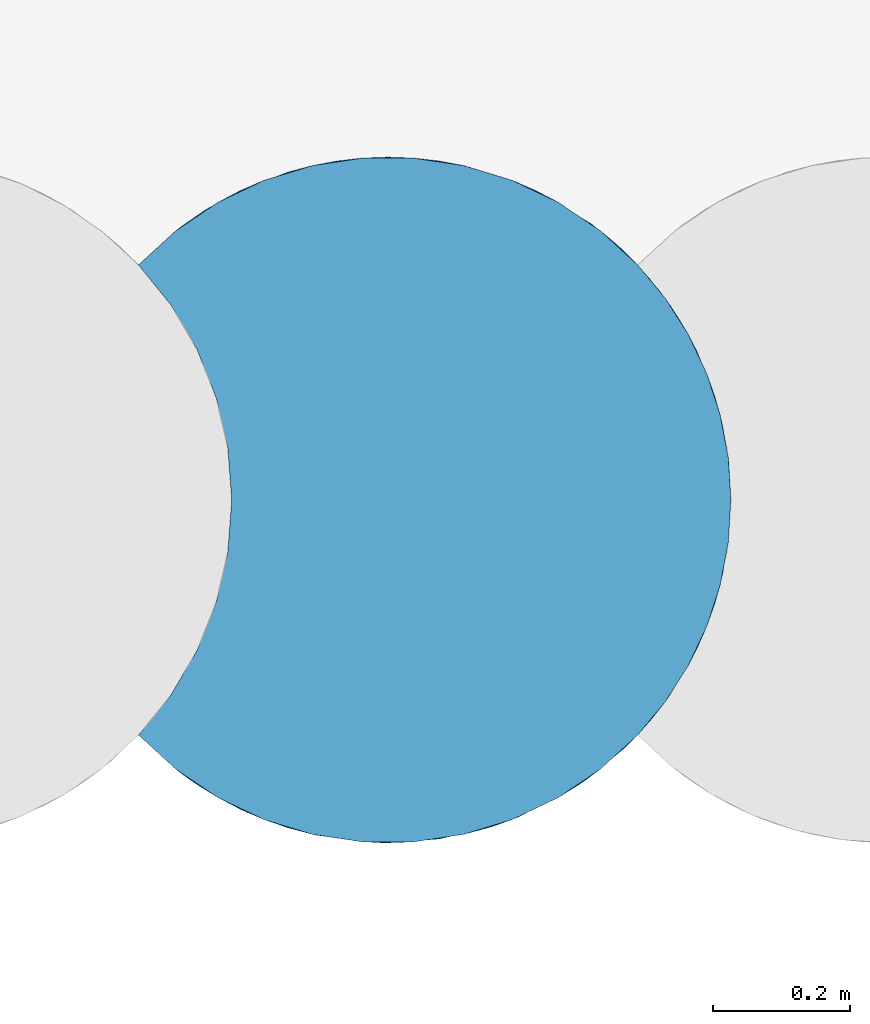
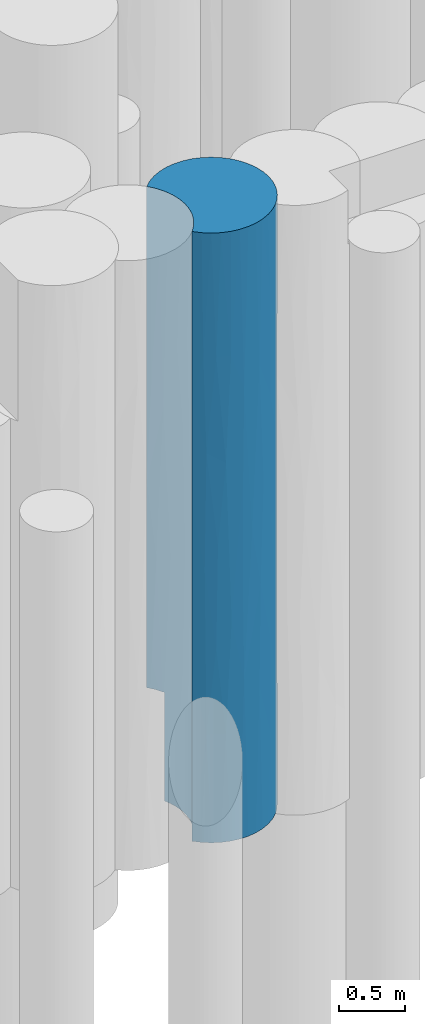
# One storey, part 38 of 104: 1 pile.
"""IFC2X3 building model written with IfcOpenShell, lengths in millimetres."""

import ifcopenshell
import ifcopenshell.guid

model = None  # the IFC model being written
_history = None  # IfcOwnerHistory: only IFC2X3 demands one
_inside = {}  # id of a spatial element -> (the spatial element, [elements in it])
_under = {}  # id of a project, library or spatial element -> (it, [spatial elements below it])
_declared = {}  # id of a project -> (the project, [libraries it declares])
_typed = {}  # id of a type object -> (the type object, [elements of that type])
_made_of = {}  # id of a material, layer set ... -> (it, [elements and type objects made of it])


def new_model(schema):
    """Start an empty IFC model of exactly this schema.

    Asked for "IFC4X3", IfcOpenShell would pick the latest addendum, in which some entities
    have other attributes; the version numbers below select the first issue.
    IFC2X3 requires an IfcOwnerHistory on every rooted entity: one is made here for all.
    """
    global model, _history
    if schema == "IFC4X3":
        model = ifcopenshell.file(schema_version=(4, 3, 0, 0))
    else:
        model = ifcopenshell.file(schema=schema)
    _inside.clear()
    _under.clear()
    _declared.clear()
    _typed.clear()
    _made_of.clear()
    _history = None
    if model.schema == "IFC2X3":
        org = make("IfcOrganization", Name="unknown")
        user = make(
            "IfcPersonAndOrganization",
            ThePerson=make("IfcPerson", FamilyName="unknown"),
            TheOrganization=org,
        )
        app = make(
            "IfcApplication",
            ApplicationDeveloper=org,
            Version="unknown",
            ApplicationFullName="unknown",
            ApplicationIdentifier="unknown",
        )
        _history = make(
            "IfcOwnerHistory",
            OwningUser=user,
            OwningApplication=app,
            ChangeAction="ADDED",
            CreationDate=0,
        )
    return model


def make(cls, **values):
    """One entity of the class cls with the attributes given. An attribute that is None is left unset."""
    return model.create_entity(
        cls, **{name: value for name, value in values.items() if value is not None}
    )


def entity(cls, *values):
    """Any entity or typed value of the class cls, its attributes in the order of the schema. None: left unset."""
    e = model.create_entity(cls)
    for i, value in enumerate(values):
        if value is not None:
            e[i] = value
    return e


def rooted(cls, **values):
    """An entity with a GlobalId (a new one), such as an element, a storey or a relation."""
    return make(cls, GlobalId=ifcopenshell.guid.new(), OwnerHistory=_history, **values)


def si_unit(unit_type, name, prefix=None):
    """IfcSIUnit, for example si_unit("LENGTHUNIT", "METRE", prefix="MILLI")."""
    return make("IfcSIUnit", UnitType=unit_type, Prefix=prefix, Name=name)


def converted_unit(unit_type, name, factor, base, dimensions=None, offset=None):
    """IfcConversionBasedUnit, such as the inch: factor (a typed value) times the base unit."""
    return make(
        "IfcConversionBasedUnit"
        if offset is None
        else "IfcConversionBasedUnitWithOffset",
        ConversionOffset=offset,
        Dimensions=None
        if dimensions is None
        else entity("IfcDimensionalExponents", *dimensions),
        UnitType=unit_type,
        Name=name,
        ConversionFactor=make(
            "IfcMeasureWithUnit", ValueComponent=factor, UnitComponent=base
        ),
    )


def derived_unit(unit_type, elements):
    """IfcDerivedUnit: a product of units, each with its exponent."""
    return make(
        "IfcDerivedUnit",
        Elements=[
            make("IfcDerivedUnitElement", Unit=unit, Exponent=power)
            for unit, power in elements
        ],
        UnitType=unit_type,
    )


def assignment(units):
    """IfcUnitAssignment: the units of a project."""
    return None if units is None else make("IfcUnitAssignment", Units=units)


def point(xyz):
    """IfcCartesianPoint."""
    return None if xyz is None else make("IfcCartesianPoint", Coordinates=xyz)


def direction(xyz):
    """IfcDirection."""
    return None if xyz is None else make("IfcDirection", DirectionRatios=xyz)


def frame(location, z_axis=None, x_axis=None):
    """IfcAxis2Placement3D, a coordinate frame: its origin and axes. An axis left out is left unset."""
    return make(
        "IfcAxis2Placement3D",
        Location=point(location),
        Axis=direction(z_axis),
        RefDirection=direction(x_axis),
    )


def origin():
    """The frame at (0, 0, 0) with its axes left unset."""
    return frame((0.0, 0.0, 0.0))


def place(relative_to, where):
    """IfcLocalPlacement: puts the frame where relative to a parent placement (None: the world)."""
    return make(
        "IfcLocalPlacement", PlacementRelTo=relative_to, RelativePlacement=where
    )


def context(
    kind, dimensions, precision=None, world=None, true_north=None, identifier=None
):
    """IfcGeometricRepresentationContext, for example the 3D "Model" context."""
    return make(
        "IfcGeometricRepresentationContext",
        ContextIdentifier=identifier,
        ContextType=kind,
        CoordinateSpaceDimension=dimensions,
        Precision=precision,
        WorldCoordinateSystem=world,
        TrueNorth=true_north,
    )


def subcontext(parent, identifier, kind, view, scale=None):
    """IfcGeometricRepresentationSubContext, for example "Body" below "Model"."""
    return make(
        "IfcGeometricRepresentationSubContext",
        ContextIdentifier=identifier,
        ContextType=kind,
        ParentContext=parent,
        TargetScale=scale,
        TargetView=view,
    )


def project(units=None, contexts=None):
    """IfcProject with its units and contexts."""
    return rooted(
        "IfcProject",
        Name="project",
        RepresentationContexts=contexts,
        UnitsInContext=assignment(units),
    )


def spatial(cls, under=None, at=None, **own):
    """A site, building, storey or space (cls), placed at a placement, below another one or the project."""
    s = rooted(cls, ObjectPlacement=at, **own)
    if under is not None:
        _under.setdefault(under.id(), (under, []))[1].append(s)
    return s


def faces_of(points, faces, orient=None, outer=None):
    """IfcFace entities. A face is a list of loops; a loop is a list of indices into points, from 0.

    orient and outer hold one flag for each loop. By default every Orientation is true, the
    first loop of a face is its IfcFaceOuterBound and the others are IfcFaceBound.
    """
    made = []
    for i, loops in enumerate(faces):
        bounds = []
        for j, loop in enumerate(loops):
            is_outer = j == 0 if outer is None else outer[i][j]
            bounds.append(
                make(
                    "IfcFaceOuterBound" if is_outer else "IfcFaceBound",
                    Bound=make("IfcPolyLoop", Polygon=[points[k] for k in loop]),
                    Orientation=True if orient is None else orient[i][j],
                )
            )
        made.append(make("IfcFace", Bounds=bounds))
    return made


def faceted_brep(points, faces, orient=None, outer=None, voids=None):
    """IfcFacetedBrep: a solid bounded by flat faces; with voids (closed shells), ...WithVoids."""
    shared = [point(p) for p in points]
    hull = make("IfcClosedShell", CfsFaces=faces_of(shared, faces, orient, outer))
    if voids is None:
        return make("IfcFacetedBrep", Outer=hull)
    return make(
        "IfcFacetedBrepWithVoids",
        Outer=hull,
        Voids=[
            make(cls, CfsFaces=faces_of(shared, fs, o, b)) for cls, fs, o, b in voids
        ],
    )


def shape(context_of_items, identifier, shape_type, items):
    """IfcShapeRepresentation: the items that make up one representation, for example the "Body"."""
    return make(
        "IfcShapeRepresentation",
        ContextOfItems=context_of_items,
        RepresentationIdentifier=identifier,
        RepresentationType=shape_type,
        Items=items,
    )


def source(mapping_origin, context_of_items, identifier, shape_type, items):
    """IfcRepresentationMap: a shape defined once, which mapped items show again and again."""
    return make(
        "IfcRepresentationMap",
        MappingOrigin=mapping_origin,
        MappedRepresentation=shape(context_of_items, identifier, shape_type, items),
    )


def transform(
    local_origin,
    x_axis=None,
    y_axis=None,
    z_axis=None,
    scale=None,
    scale2=None,
    scale3=None,
    uniform=True,
):
    """IfcCartesianTransformationOperator3D, or its non-uniform kind. x_axis, y_axis, z_axis: its Axis1, 2, 3."""
    if uniform:
        return make(
            "IfcCartesianTransformationOperator3D",
            Axis1=direction(x_axis),
            Axis2=direction(y_axis),
            LocalOrigin=point(local_origin),
            Scale=scale,
            Axis3=direction(z_axis),
        )
    return make(
        "IfcCartesianTransformationOperator3DnonUniform",
        Axis1=direction(x_axis),
        Axis2=direction(y_axis),
        LocalOrigin=point(local_origin),
        Scale=scale,
        Axis3=direction(z_axis),
        Scale2=scale2,
        Scale3=scale3,
    )


def mapped(mapping_source, mapping_target):
    """IfcMappedItem: shows the shape of a source again, moved by a transform."""
    return make(
        "IfcMappedItem", MappingSource=mapping_source, MappingTarget=mapping_target
    )


def material(Name=None, Category=None):
    """IfcMaterial."""
    return make("IfcMaterial", Name=Name, Category=Category)


def made_of(thing, what):
    """Note that an element or type object is made of a material, layer set ...; save() writes the relation."""
    if what is not None:
        _made_of.setdefault(what.id(), (what, []))[1].append(thing)
    return thing


def element(
    cls,
    number,
    at=None,
    inside=None,
    cuts=None,
    type_object=None,
    material=None,
    context=None,
    identifier="Body",
    shape_type=None,
    held_by="IfcProductDefinitionShape",
    body=None,
    shapes=None,
    **own,
):
    """One element of the class cls, such as IfcWall. Its Tag is "e" and its number.

    at: its placement. inside: the storey or other place that contains it. cuts: it is an
    opening in that element (IfcRelVoidsElement). A single representation is given by context,
    identifier, shape_type and body (its items); several are given by shapes. held_by: the class
    of the entity that holds the representations. save() writes the other relations.
    """
    e = rooted(cls, Tag="e%d" % number, ObjectPlacement=at, **own)
    if body is not None:
        shapes = [shape(context, identifier, shape_type, body)]
    if shapes is not None:
        e.Representation = make(held_by, Representations=shapes)
    if inside is not None:
        _inside.setdefault(inside.id(), (inside, []))[1].append(e)
    if cuts is not None:
        rooted(
            "IfcRelVoidsElement", RelatingBuildingElement=cuts, RelatedOpeningElement=e
        )
    if type_object is not None:
        _typed.setdefault(type_object.id(), (type_object, []))[1].append(e)
    return made_of(e, material)


def aggregate(whole, parts):
    """IfcRelAggregates: a whole, such as a stair, and the parts it consists of."""
    return rooted("IfcRelAggregates", RelatingObject=whole, RelatedObjects=parts)


def save(model, path):
    """Write the relations noted so far, then the file.

    IfcRelAggregates (storeys below a building ...), IfcRelContainedInSpatialStructure (elements
    in a storey), IfcRelDefinesByType, IfcRelAssociatesMaterial and IfcRelDeclares: one each for
    every whole, place, type object, material and project.
    """
    for whole, parts in _under.values():
        aggregate(whole, parts)
    for where, things in _inside.values():
        rooted(
            "IfcRelContainedInSpatialStructure",
            RelatedElements=things,
            RelatingStructure=where,
        )
    for kind, things in _typed.values():
        rooted("IfcRelDefinesByType", RelatedObjects=things, RelatingType=kind)
    for what, things in _made_of.values():
        rooted("IfcRelAssociatesMaterial", RelatedObjects=things, RelatingMaterial=what)
    for by, libraries in _declared.values():
        rooted("IfcRelDeclares", RelatingContext=by, RelatedDefinitions=libraries)
    model.write(path)


model = new_model("IFC2X3")

# Units and contexts
model_context = context("Model", 3, precision=0.01, world=origin(), true_north=direction((6.12303176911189e-17, 1.0)))
body_context = subcontext(model_context, "Body", "Model", "MODEL_VIEW")
ifc_project = project(units=[si_unit("LENGTHUNIT", "METRE", prefix="MILLI"), si_unit("AREAUNIT", "SQUARE_METRE", prefix="MILLI"), si_unit("VOLUMEUNIT", "CUBIC_METRE"), converted_unit("PLANEANGLEUNIT", "DEGREE", entity("IfcRatioMeasure", 0.0174532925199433), si_unit("PLANEANGLEUNIT", "RADIAN"), dimensions=[0, 0, 0, 0, 0, 0, 0]), si_unit("MASSUNIT", "GRAM", prefix="KILO"), derived_unit("MASSDENSITYUNIT", [(si_unit("MASSUNIT", "GRAM", prefix="KILO"), 1), (si_unit("LENGTHUNIT", "METRE"), -3)]), derived_unit("MOMENTOFINERTIAUNIT", [(si_unit("LENGTHUNIT", "METRE"), 4)]), si_unit("TIMEUNIT", "SECOND"), si_unit("FREQUENCYUNIT", "HERTZ"), si_unit("THERMODYNAMICTEMPERATUREUNIT", "DEGREE_CELSIUS"), derived_unit("THERMALTRANSMITTANCEUNIT", [(si_unit("MASSUNIT", "GRAM", prefix="KILO"), 1), (si_unit("THERMODYNAMICTEMPERATUREUNIT", "KELVIN"), -1), (si_unit("TIMEUNIT", "SECOND"), -3)]), derived_unit("VOLUMETRICFLOWRATEUNIT", [(si_unit("LENGTHUNIT", "METRE"), 3), (si_unit("TIMEUNIT", "SECOND"), -1)]), si_unit("ELECTRICCURRENTUNIT", "AMPERE"), si_unit("ELECTRICVOLTAGEUNIT", "VOLT"), si_unit("POWERUNIT", "WATT"), si_unit("FORCEUNIT", "NEWTON", prefix="KILO"), si_unit("ILLUMINANCEUNIT", "LUX"), si_unit("LUMINOUSFLUXUNIT", "LUMEN"), si_unit("LUMINOUSINTENSITYUNIT", "CANDELA"), derived_unit("USERDEFINED", [(si_unit("MASSUNIT", "GRAM", prefix="KILO"), -1), (si_unit("LENGTHUNIT", "METRE"), -2), (si_unit("TIMEUNIT", "SECOND"), 3), (si_unit("LUMINOUSFLUXUNIT", "LUMEN"), 1)]), derived_unit("LINEARVELOCITYUNIT", [(si_unit("LENGTHUNIT", "METRE"), 1), (si_unit("TIMEUNIT", "SECOND"), -1)]), si_unit("PRESSUREUNIT", "PASCAL"), derived_unit("USERDEFINED", [(si_unit("LENGTHUNIT", "METRE"), -2), (si_unit("MASSUNIT", "GRAM", prefix="KILO"), 1), (si_unit("TIMEUNIT", "SECOND"), -2)]), derived_unit("LINEARFORCEUNIT", [(si_unit("MASSUNIT", "GRAM", prefix="KILO"), 1), (si_unit("LENGTHUNIT", "METRE"), 1), (si_unit("TIMEUNIT", "SECOND"), -2), (si_unit("LENGTHUNIT", "METRE"), -1)]), derived_unit("PLANARFORCEUNIT", [(si_unit("MASSUNIT", "GRAM", prefix="KILO"), 1), (si_unit("LENGTHUNIT", "METRE"), 1), (si_unit("TIMEUNIT", "SECOND"), -2), (si_unit("LENGTHUNIT", "METRE"), -2)])], contexts=[model_context])

# Site, building, storey
site_placement = place(None, origin())
site = spatial("IfcSite", under=ifc_project, at=site_placement, Name="Theater aan de Parade", CompositionType="ELEMENT")
building_placement = place(site_placement, origin())
building = spatial("IfcBuilding", under=site, at=building_placement, Name="Theater aan de Parade", CompositionType="ELEMENT")
storey_placement = place(building_placement, frame((0.0, 0.0, -5520.0)))
storey = spatial("IfcBuildingStorey", under=building, at=storey_placement, Name="-2 kelder", CompositionType="ELEMENT", Elevation=-5520.0)

# Pile
ifc_material = material(Name="00_PBT_MAT_grout")
shared_shape = source(origin(), body_context, "Body", "Brep", [
    faceted_brep([(852.778565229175, 612.705865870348, 0.0), (862.377155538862, 556.859898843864, 0.0), (865.595272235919, 500.222804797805, 0.0), (861.634305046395, 437.411357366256, 0.0), (849.822713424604, 375.628321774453, 0.0), (830.347523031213, 315.817421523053, 0.0), (803.517959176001, 258.926886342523, 0.0), (769.755868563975, 205.851929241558, 0.0), (729.594749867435, 157.434177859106, 0.0), (674.963193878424, 107.423251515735, 0.0), (613.550146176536, 66.0357708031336, 0.0), (546.698111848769, 34.1737070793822, 0.0), (475.873547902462, 12.5357105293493, 0.0), (402.629961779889, 1.59625940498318, 0.0), (328.573875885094, 1.5952722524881, 0.0), (255.329632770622, 12.5328533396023, 0.0), (184.503810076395, 34.1692860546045, 0.0), (117.650023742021, 66.0302740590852, 0.0), (56.234857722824, 107.417339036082, 0.0), (1.59527223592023, 157.434240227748, 0.0), (49.040477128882, 216.122746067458, 0.0), (87.1123213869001, 281.283492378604, 0.0), (114.943469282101, 351.432016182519, 0.0), (131.899884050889, 424.970225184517, 0.0), (137.59527223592, 500.222804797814, 0.0), (134.377353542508, 556.858162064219, 0.0), (124.780071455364, 612.699341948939, 0.0), (108.920050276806, 667.114846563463, 0.0), (86.9917285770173, 719.409540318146, 0.0), (814.991728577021, 719.409540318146, 0.0), (836.917925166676, 667.120848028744, 0.0), (854.020876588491, 607.182745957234, 1094.02741643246), (814.991728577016, 719.40954031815, 1000.0), (841.026602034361, 655.029298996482, 4762.58295011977), (803.517959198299, 741.518723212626, 5620.0), (830.347522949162, 684.628188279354, 5620.0), (865.595272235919, 500.222804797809, 2810.0), (865.595272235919, 500.222804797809, 1561.53772500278), (851.888657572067, 616.492935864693, 2185.76883482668), (703.210170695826, 869.026519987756, 2200.60581933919), (746.362503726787, 824.285013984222, 3310.00690634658), (803.401066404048, 741.730747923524, 2328.06655431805), (841.026601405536, 655.029300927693, 3857.71264231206), (865.595272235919, 500.222804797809, 4215.0), (865.595272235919, 500.222804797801, 4058.46229407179), (865.595272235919, 500.222804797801, 3123.07541185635), (476.571159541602, 987.751626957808, 4283.64346164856), (580.714838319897, 951.580282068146, 4088.45269383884), (439.453512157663, 994.737678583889, 3309.99801466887), (1.5952722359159, 843.011369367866, 5620.0), (56.2348580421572, 893.02827081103, 5620.0), (63.7853417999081, 898.858936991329, 4676.61157762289), (674.97094175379, 893.016255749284, 1000.0), (729.595272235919, 843.011369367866, 1000.0), (769.755868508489, 794.593680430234, 5620.0), (787.472388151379, 768.587666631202, 4395.38615293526), (328.567290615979, 998.849848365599, 1000.0), (291.740779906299, 994.738238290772, 2360.44460435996), (439.453512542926, 994.737678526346, 2129.89388414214), (580.720158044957, 951.577746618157, 2525.44905794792), (613.55661066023, 934.406147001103, 1000.0), (729.584965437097, 843.022313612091, 5620.0), (861.634305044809, 563.034252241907, 5620.0), (150.473767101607, 951.579357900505, 2319.63983707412), (117.637172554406, 934.407996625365, 1000.0), (65.2017430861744, 899.927355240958, 1974.73221121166), (841.063509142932, 654.915906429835, 2981.48445914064), (865.595272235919, 500.222804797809, 5620.0), (849.822713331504, 624.817288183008, 5620.0), (790.702617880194, 763.440860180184, 1000.0), (762.16743818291, 804.739663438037, 1000.0), (100.386739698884, 924.091221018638, 3418.67983370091), (1.59527223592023, 843.011369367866, 2561.54104465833), (1.5952722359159, 843.011369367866, 4123.08208931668), (806.389759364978, 736.231745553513, 3307.45861235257), (699.528820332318, 872.363081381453, 4401.38648641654), (546.702158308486, 966.27033007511, 1000.0), (475.874328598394, 987.909722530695, 1000.0), (56.2225002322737, 893.018537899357, 1000.0), (674.963193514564, 893.022358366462, 5620.0), (328.123378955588, 998.816684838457, 3417.58259392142), (402.627039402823, 998.849567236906, 1000.0), (613.550145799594, 934.40983900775, 5620.0), (184.491893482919, 966.271693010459, 1000.0), (255.319907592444, 987.910557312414, 1000.0), (219.515588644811, 978.407628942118, 3586.41160869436), (256.001465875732, 988.064170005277, 4554.82452433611), (1.59527223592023, 843.011369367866, 1000.0), (150.486217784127, 951.585291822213, 4517.65925043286), (661.854395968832, 903.001319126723, 3156.01166058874), (117.650024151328, 934.415335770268, 5620.0), (365.601936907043, 1000.22280475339, 4389.69419363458), (546.698111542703, 966.271902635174, 5620.0), (402.629961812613, 998.849350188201, 5620.0), (475.873547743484, 987.90989910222, 5620.0), (328.573876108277, 998.850337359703, 5620.0), (184.50381050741, 966.276323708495, 5620.0), (255.329633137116, 987.912756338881, 5620.0), (219.515588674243, 22.0379806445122, 994.942789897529), (645.023985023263, 85.5909265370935, 810.753821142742), (86.1751177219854, 85.5851590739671, 994.944437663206), (66.7455540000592, 99.3626721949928, 4465.09635389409), (117.650024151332, 66.0302738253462, 5620.0), (56.2348580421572, 107.417338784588, 5620.0), (365.601937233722, 0.222804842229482, 1466.90780681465), (657.019148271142, 93.9321151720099, 2810.0), (524.729861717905, 26.2226123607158, 2282.32447259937), (645.02398505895, 85.5909265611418, 1690.12843262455), (511.686987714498, 22.0416564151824, 1326.40558646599), (774.199042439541, 212.051052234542, 2004.68503856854), (750.432965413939, 181.005089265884, 1199.37007734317), (817.828225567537, 286.949843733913, 1628.24107952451), (439.454566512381, 5.70808848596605, 2810.0), (511.686987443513, 22.041656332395, 4293.59441641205), (365.601937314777, 0.222804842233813, 4153.09219296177), (219.515589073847, 22.0379805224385, 3492.73714159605), (257.99851149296, 11.9370922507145, 4473.57945276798), (150.486218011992, 48.8603176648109, 4474.58907716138), (645.02398465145, 85.5909262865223, 3929.87156502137), (645.023984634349, 85.5909262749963, 4809.24617760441), (184.503810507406, 34.1692858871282, 5620.0), (853.84539995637, 392.464683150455, 3590.76885291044), (85.7027751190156, 85.9038575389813, 3590.76885378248), (817.828225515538, 286.949843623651, 3991.75892080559), (841.026602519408, 345.416312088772, 4728.84314183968), (805.355489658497, 262.292245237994, 4786.45848896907), (1.5952722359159, 157.434240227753, 1561.52685308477), (74.8586278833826, 93.4400573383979, 2515.8121240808), (1.5952722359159, 157.434240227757, 4058.42517668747), (556.377232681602, 38.0515772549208, 3195.12647963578), (805.355489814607, 262.292245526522, 833.541510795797), (861.634305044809, 437.411357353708, 5620.0), (402.629961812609, 1.59625940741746, 5620.0), (328.573876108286, 1.5952722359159, 5620.0), (750.432965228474, 181.005089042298, 4420.6299218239), (717.695690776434, 145.222388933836, 3615.31495996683), (841.026602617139, 345.416312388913, 891.156858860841), (546.69811154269, 34.1737069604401, 5620.0), (475.873547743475, 12.5357104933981, 5620.0), (1.5952722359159, 157.434240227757, 3123.05370616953), (355.804212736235, 0.318678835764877, 3263.1918905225), (262.13809203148, 11.0432755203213, 2028.99523178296), (353.172110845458, 0.377163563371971, 2369.07591278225), (729.584965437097, 157.423295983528, 5620.0), (674.963193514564, 107.423251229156, 5620.0), (150.486217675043, 48.8603178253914, 1796.17663660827), (255.329633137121, 12.532853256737, 5620.0), (854.390248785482, 394.963739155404, 2342.30655876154), (830.347522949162, 315.817421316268, 5620.0), (849.822713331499, 375.628321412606, 5620.0), (826.042446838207, 305.31667508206, 2950.47114766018), (613.550145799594, 66.0357705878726, 5620.0), (161.633251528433, 43.7148704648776, 2735.88706443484), (1.5952722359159, 157.434240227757, 5620.0), (769.755868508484, 205.85192916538, 5620.0), (711.742683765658, 139.415419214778, 2094.13410580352), (803.517959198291, 258.926886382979, 5620.0), (1.5952722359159, 157.434240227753, 2496.92458741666), (750.432965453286, 181.005089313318, 2810.0), (49.040477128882, 784.322863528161, 5620.0), (87.1123213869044, 719.16211721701, 5620.0), (114.943469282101, 649.013593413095, 5620.0), (131.899884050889, 575.475384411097, 5620.0), (137.59527223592, 500.222804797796, 5620.0), (131.899884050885, 424.970225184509, 5620.0), (114.943469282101, 351.432016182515, 5620.0), (87.1123213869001, 281.283492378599, 5620.0), (49.040477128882, 216.122746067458, 5620.0), (137.59527223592, 500.222804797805, 1561.53772533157), (137.59527223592, 500.222804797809, 2810.0), (118.129955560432, 638.376408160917, 2185.76884068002), (124.811099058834, 612.564863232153, 4657.58649590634), (137.59527223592, 500.222804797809, 4215.0), (125.97381170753, 607.397438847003, 1095.37767137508), (69.307538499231, 752.46181676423, 4657.58649237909), (102.353272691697, 684.61369668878, 3905.98762480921), (57.7018130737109, 771.350992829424, 3773.13755671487), (86.9917285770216, 719.409540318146, 1000.0), (129.799943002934, 588.169163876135, 3749.95709791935), (48.9622639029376, 784.436101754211, 1000.0), (114.521440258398, 650.36084213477, 3074.4744607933), (73.2384738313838, 745.610255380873, 2499.01518659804), (137.59527223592, 500.222804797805, 3123.07541190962), (137.59527223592, 500.222804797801, 4058.46229404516), (124.81109945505, 387.880748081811, 4607.4702237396), (69.3075392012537, 247.983794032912, 4607.47022365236), (56.4533644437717, 227.169882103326, 2029.23114695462), (102.353273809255, 315.831915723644, 1827.3166412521), (124.811099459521, 387.880748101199, 1012.52977635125), (69.3075392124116, 247.983794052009, 1012.52977643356), (129.722802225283, 411.845804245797, 3590.76885293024), (102.35327379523, 315.831915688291, 3792.68335898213), (128.169789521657, 403.596498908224, 2509.81800557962), (60.9783062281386, 234.240086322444, 3110.18199494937), (103.558997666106, 318.900421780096, 2894.95173457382)], [[[0, 1, 2, 3, 4, 5, 6, 7, 8, 9, 10, 11, 12, 13, 14, 15, 16, 17, 18, 19, 20, 21, 22, 23, 24, 25, 26, 27, 28, 29, 30]], [[31, 30, 32]], [[33, 34, 35]], [[36, 37, 38]], [[39, 40, 41]], [[41, 38, 32]], [[42, 33, 43, 44, 45, 36]], [[46, 47, 48]], [[49, 50, 51]], [[52, 39, 53]], [[54, 34, 55]], [[56, 57, 58]], [[59, 39, 60]], [[48, 47, 59]], [[30, 29, 32]], [[38, 37, 31]], [[54, 55, 61]], [[43, 33, 62]], [[63, 64, 65]], [[66, 36, 38]], [[43, 62, 67]], [[2, 1, 31]], [[68, 33, 35]], [[1, 0, 31]], [[33, 55, 34]], [[69, 70, 41]], [[53, 39, 70]], [[70, 39, 41]], [[71, 72, 73]], [[74, 55, 42]], [[55, 75, 61]], [[76, 77, 58]], [[69, 41, 32]], [[65, 64, 78]], [[75, 79, 61]], [[80, 58, 57]], [[58, 77, 81]], [[40, 74, 41]], [[59, 76, 58]], [[75, 82, 79]], [[83, 63, 84]], [[55, 40, 75]], [[57, 84, 63]], [[80, 85, 86]], [[63, 83, 64]], [[38, 31, 32]], [[63, 85, 57]], [[87, 72, 65]], [[88, 85, 71]], [[39, 89, 40]], [[57, 56, 84]], [[90, 88, 51]], [[89, 39, 59]], [[91, 46, 48]], [[82, 47, 92]], [[47, 46, 92]], [[58, 81, 56]], [[85, 88, 86]], [[93, 94, 46]], [[80, 91, 48]], [[71, 85, 63]], [[93, 91, 95]], [[96, 88, 90]], [[86, 95, 91]], [[55, 33, 42]], [[33, 68, 62]], [[86, 91, 80]], [[90, 51, 50]], [[97, 86, 96]], [[59, 58, 48]], [[71, 63, 65]], [[60, 76, 59]], [[51, 71, 73]], [[60, 39, 52]], [[41, 74, 66]], [[89, 75, 40]], [[82, 75, 47]], [[96, 86, 88]], [[95, 86, 97]], [[31, 37, 2]], [[31, 0, 30]], [[59, 47, 89]], [[75, 89, 47]], [[93, 46, 91]], [[92, 46, 94]], [[58, 80, 48]], [[57, 85, 80]], [[55, 74, 40]], [[66, 74, 42]], [[36, 66, 42]], [[41, 66, 38]], [[87, 65, 78]], [[71, 65, 72]], [[71, 51, 88]], [[49, 51, 73]], [[98, 16, 15]], [[99, 11, 10]], [[98, 100, 17]], [[101, 102, 103]], [[104, 98, 14]], [[105, 106, 107]], [[12, 11, 108]], [[109, 110, 111]], [[108, 13, 12]], [[18, 100, 19]], [[112, 113, 114]], [[115, 116, 117]], [[104, 14, 13]], [[110, 107, 99]], [[113, 118, 119]], [[99, 108, 11]], [[120, 102, 117]], [[104, 13, 108]], [[121, 45, 44]], [[116, 115, 114]], [[101, 122, 117]], [[123, 124, 125]], [[126, 100, 127]], [[128, 122, 101]], [[129, 113, 112]], [[116, 120, 117]], [[130, 6, 5]], [[3, 2, 37]], [[131, 44, 43, 67]], [[114, 132, 133]], [[113, 132, 114]], [[134, 135, 123]], [[130, 136, 111]], [[113, 137, 138]], [[122, 128, 139]], [[110, 8, 7]], [[140, 141, 142]], [[99, 8, 110]], [[119, 143, 144]], [[130, 7, 6]], [[100, 98, 145]], [[136, 3, 37]], [[108, 106, 104]], [[145, 98, 141]], [[116, 133, 146]], [[147, 37, 36, 45]], [[130, 5, 136]], [[148, 124, 149]], [[112, 140, 142]], [[131, 149, 124]], [[150, 111, 147]], [[132, 113, 138]], [[136, 5, 4]], [[151, 119, 144]], [[134, 143, 119]], [[152, 122, 127]], [[153, 128, 101]], [[134, 154, 143]], [[134, 125, 154]], [[155, 110, 109]], [[118, 113, 129]], [[119, 137, 113]], [[148, 125, 124]], [[17, 100, 18]], [[148, 156, 125]], [[147, 45, 121]], [[129, 105, 118]], [[10, 9, 99]], [[135, 134, 118]], [[17, 16, 98]], [[121, 124, 123]], [[131, 124, 44]], [[3, 136, 4]], [[147, 136, 37]], [[14, 98, 15]], [[141, 98, 104]], [[127, 100, 145]], [[19, 100, 126]], [[119, 151, 137]], [[134, 119, 118]], [[99, 9, 8]], [[108, 99, 107]], [[127, 122, 139]], [[115, 117, 122]], [[124, 121, 44]], [[150, 147, 121]], [[150, 121, 123]], [[136, 147, 111]], [[142, 141, 104]], [[152, 141, 115]], [[127, 139, 157, 126]], [[152, 127, 145]], [[123, 158, 150]], [[150, 158, 109]], [[154, 125, 156]], [[134, 123, 125]], [[111, 110, 130]], [[7, 130, 110]], [[133, 116, 114]], [[120, 116, 146]], [[141, 152, 145]], [[122, 152, 115]], [[106, 129, 112]], [[129, 106, 105]], [[155, 105, 107]], [[135, 105, 158]], [[104, 112, 142]], [[112, 114, 140]], [[114, 115, 140]], [[141, 140, 115]], [[104, 106, 112]], [[107, 106, 108]], [[102, 101, 117]], [[153, 101, 103]], [[105, 135, 118]], [[123, 135, 158]], [[150, 109, 111]], [[155, 109, 158]], [[105, 155, 158]], [[110, 155, 107]], [[92, 94, 93, 95, 97, 96, 90, 50, 49, 159, 160, 161, 162, 163, 164, 165, 166, 167, 153, 103, 102, 120, 146, 133, 132, 138, 137, 151, 144, 143, 154, 156, 148, 149, 131, 67, 62, 68, 35, 34, 54, 61, 79, 82]], [[168, 169, 170]], [[171, 161, 160]], [[163, 171, 172]], [[24, 173, 25]], [[73, 174, 49]], [[173, 26, 25]], [[173, 27, 26]], [[162, 161, 171]], [[171, 174, 175]], [[174, 73, 176]], [[173, 177, 27]], [[178, 171, 175]], [[72, 87, 179]], [[175, 180, 178]], [[49, 174, 159]], [[168, 170, 173]], [[159, 174, 160]], [[181, 72, 179]], [[172, 171, 178]], [[175, 174, 176]], [[160, 174, 171]], [[181, 180, 176]], [[181, 179, 177]], [[28, 27, 177]], [[178, 169, 182, 183, 172]], [[162, 171, 163]], [[170, 169, 180]], [[178, 180, 169]], [[170, 180, 181]], [[170, 181, 177]], [[176, 73, 72]], [[175, 176, 180]], [[181, 176, 72]], [[177, 173, 170]], [[24, 168, 173]], [[165, 184, 185, 166]], [[184, 164, 163]], [[186, 126, 157]], [[187, 188, 189]], [[21, 20, 189]], [[166, 185, 167]], [[183, 182, 190]], [[24, 188, 168]], [[184, 163, 172, 183]], [[191, 185, 184]], [[168, 188, 192]], [[165, 164, 184]], [[192, 182, 169, 168]], [[21, 189, 188, 22]], [[22, 188, 23]], [[193, 186, 157]], [[128, 153, 185]], [[126, 189, 19]], [[23, 188, 24]], [[192, 190, 182]], [[193, 157, 139, 128]], [[19, 189, 20]], [[167, 185, 153]], [[128, 185, 193]], [[187, 189, 186]], [[191, 184, 190]], [[126, 186, 189]], [[187, 194, 192]], [[187, 186, 194]], [[185, 191, 193]], [[183, 190, 184]], [[194, 193, 191]], [[191, 190, 194]], [[188, 187, 192]], [[186, 193, 194]], [[192, 194, 190]], [[84, 56, 81, 77, 76, 60, 52, 53, 70, 69, 32, 177, 179, 87, 78, 64, 83]], [[177, 32, 29, 28]]]),
])
pile_placement = place(storey_placement, frame((36672.2628578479, 37980.5904596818, -3840.0)))
element("IfcPile", 1, at=pile_placement, inside=storey, material=ifc_material, Name="17_PBT_SFO_grondkering_rond:Ø1000 (grondkering)", ObjectType="17_PBT_SFO_grondkering_rond:Ø1000 (grondkering)", PredefinedType="NOTDEFINED", context=body_context, shape_type="MappedRepresentation", body=[
    mapped(shared_shape, transform((0.0, 0.0, 0.0), scale=1.0)),
])

save(model, "model.ifc")
